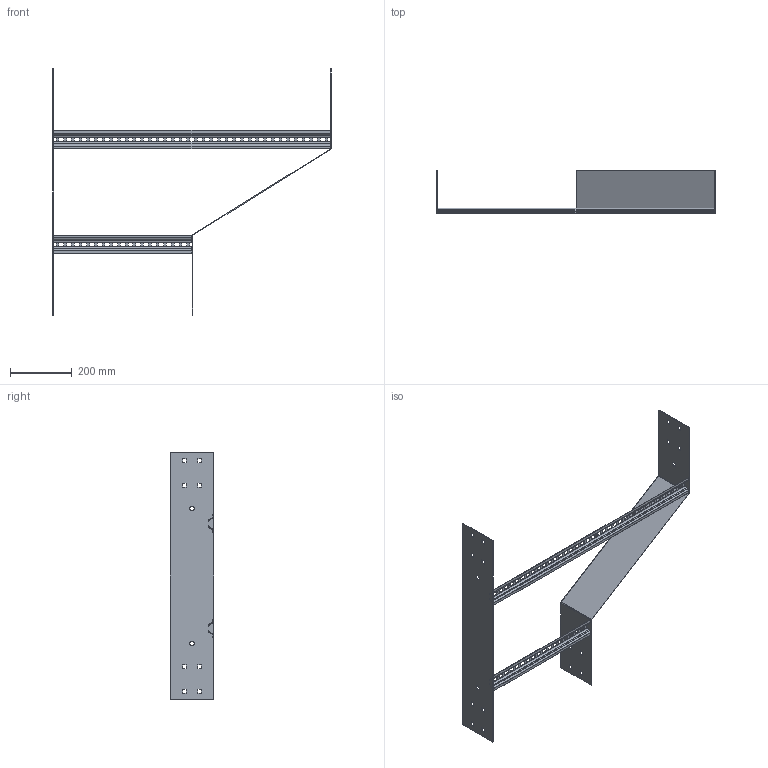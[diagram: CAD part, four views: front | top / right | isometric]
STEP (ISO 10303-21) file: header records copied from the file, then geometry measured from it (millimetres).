
FILE_DESCRIPTION (( 'STEP AP203' ), '1' );
FILE_NAME ('N20C LHR900450.STEP', '2024-08-28T22:26:46', ( '' ), ( '' ), 'SwSTEP 2.0', 'SolidWorks 2023', '' );
FILE_SCHEMA (( 'CONFIG_CONTROL_DESIGN' ));
Length unit declared in the file: millimetre
Products named in the file (5): N20C Tee Back Plate_800; N20C REDUCER_LHR450x900; N20C LHR900450; Ladder Rung_Ladder Rung -  900mm; Ladder Rung_Ladder Rung -  450mm
Assembly tree (4 placements, depth 2):
  N20C LHR900450
    N20C REDUCER_LHR450x900
    Ladder Rung_Ladder Rung -  450mm
    Ladder Rung_Ladder Rung -  900mm
    N20C Tee Back Plate_800
Bounding box: 904 x 140 x 800 mm (x, y, z)
Volume: 656085.6 mm3; surface area: 712226.7 mm2
Topology: 4 solids, 4 shells, 400 faces, 1096 edges, 704 vertices
Faces by surface type: plane 372, cylinder 28
Entity records: 13167 total; most frequent: CARTESIAN_POINT 2207, ORIENTED_EDGE 2192, DIRECTION 1966, EDGE_CURVE 1096, LINE 1040, VECTOR 1040, VERTEX_POINT 704, EDGE_LOOP 544
